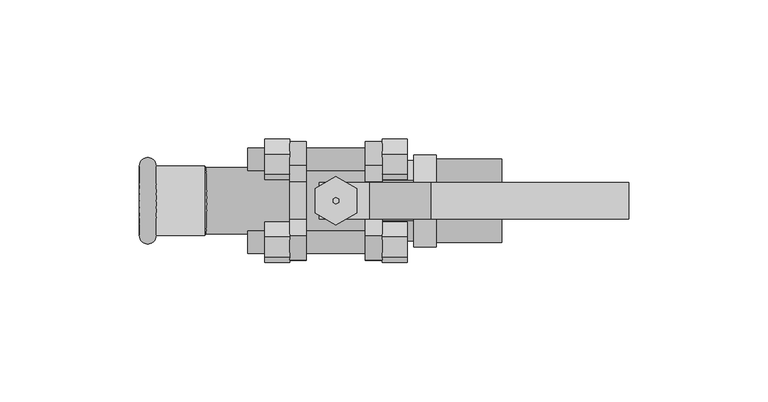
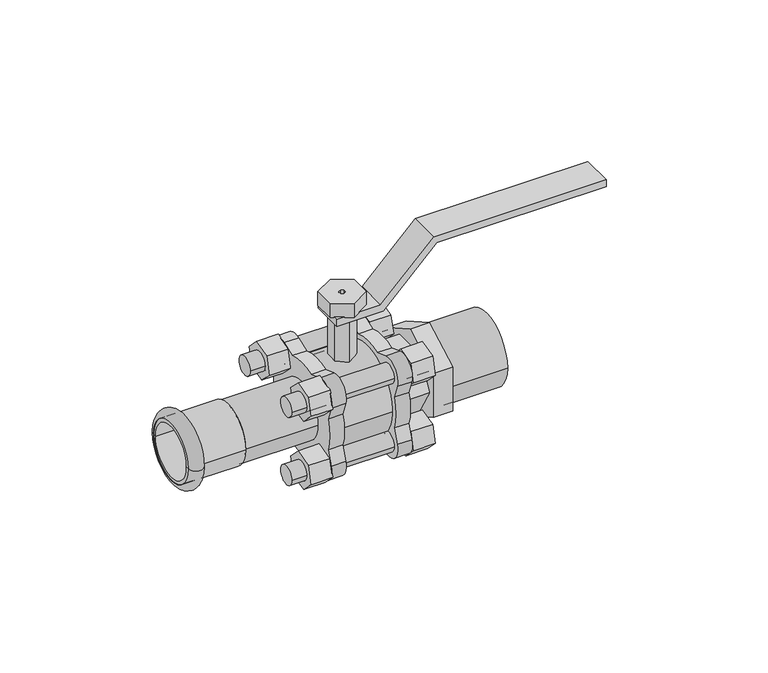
"""IFC4 building model written with IfcOpenShell, lengths in millimetres: valve geometry."""

from ifc_helpers import new_model, si_unit, point, frame, frame_2d, origin, origin_2d, place, context, project, spatial, polyline, circle_curve, ellipse_curve, trimmed, segment, composite_curve, outline, extrude, source, transform, mapped, element, save
from ifc_brep_helpers import plane_surface, cylinder_surface, revolved_surface, advanced_brep


def valve_31f89c0d(model_context):
    return source(origin(), model_context, "Body", "SolidModel", [
        extrude(outline(polyline([(36.0, 13.2426407), (58.0, 35.2426407), (58.0, 105.0), (61.0, 105.0), (61.0, 34.0), (39.0, 12.0), (39.0, -6.0), (36.0, -6.0), (36.0, 13.2426407)])), frame((0.0, -6.5625, 0.0), z_axis=(0.0, 1.0, 0.0), x_axis=(0.0, 0.0, 1.0)), (0.0, 0.0, 1.0), 13.125),
        advanced_brep(
        [(-70.5, 12.5, 0.0), (-70.5, -12.5, 0.0), (-64.4987073, -12.5, 0.0), (-64.4987073, 12.5, 0.0)],
        [
            (0, 1, circle_curve(frame((-70.5, 0.0, 0.0), z_axis=(-1.0, 0.0, 0.0), x_axis=(0.0, -1.0, 0.0)), 12.5)),
            (1, 2),
            (2, 3, circle_curve(frame((-64.4987073, 0.0, 0.0), z_axis=(1.0, 0.0, 0.0), x_axis=(0.0, -1.0, 0.0)), 12.5)),
            (3, 0),
            (1, 0, circle_curve(frame((-70.5, 0.0, 0.0), z_axis=(-1.0, 0.0, 0.0), x_axis=(0.0, -1.0, 0.0)), 12.5)),
            (3, 2, circle_curve(frame((-64.4987073, 0.0, 0.0), z_axis=(1.0, 0.0, 0.0), x_axis=(0.0, -1.0, 0.0)), 12.5)),
            (2, 1, circle_curve(frame((-67.4993536, -12.5, 0.0), z_axis=(0.0, 0.0, -1.0), x_axis=(-1.0, 0.0, 0.0)), 3.0006464)),
            (0, 3, circle_curve(frame((-67.4993536, 12.5, 0.0), z_axis=(0.0, 0.0, -1.0), x_axis=(-1.0, 0.0, 0.0)), 3.0006464)),
        ],
        [
            revolved_surface(polyline([(-64.4987073, -12.5, 0.0), (-70.5, -12.5, 0.0)]), (-47.0, 0.0, 0.0), (1.0, 0.0, 0.0)),
            revolved_surface(trimmed(ellipse_curve(frame((-67.4993536, -12.5, 0.0), z_axis=(0.0, 0.0, 1.0), x_axis=(-1.0, 0.0, 0.0)), 3.0006464, 3.0006464), [point((-70.5, -12.5, 0.0))], [point((-64.4987073, -12.5, 0.0))], True, "CARTESIAN"), (-47.0, 0.0, 0.0), (1.0, 0.0, 0.0)),
        ],
        [
            (0, [[1, 2, 3, 4]]),
            (0, [[5, -4, 6, -2]]),
            (1, [[-3, 7, -1, 8]]),
            (1, [[-6, -8, -5, -7]]),
        ],
    ),
        advanced_brep(
        [(-70.5, 11.0, 0.0), (-70.5, -11.0, 0.0), (-46.0, -11.0, 0.0), (-46.0, 11.0, 0.0), (-70.5, 12.5, 0.0), (-70.5, -12.5, 0.0), (-47.0, 12.5, 0.0), (-47.0, -12.5, 0.0)],
        [
            (0, 1, circle_curve(frame((-70.5, 0.0, 0.0), z_axis=(-1.0, 0.0, 0.0), x_axis=(0.0, -1.0, 0.0)), 11.0)),
            (1, 2),
            (2, 3, circle_curve(frame((-46.0, 0.0, 0.0), z_axis=(1.0, 0.0, 0.0), x_axis=(0.0, -1.0, 0.0)), 11.0)),
            (3, 0),
            (1, 0, circle_curve(frame((-70.5, 0.0, 0.0), z_axis=(-1.0, 0.0, 0.0), x_axis=(0.0, -1.0, 0.0)), 11.0)),
            (3, 2, circle_curve(frame((-46.0, 0.0, 0.0), z_axis=(1.0, 0.0, 0.0), x_axis=(0.0, -1.0, 0.0)), 11.0)),
            (4, 5, circle_curve(frame((-70.5, 0.0, 0.0), z_axis=(-1.0, 0.0, 0.0), x_axis=(0.0, -1.0, 0.0)), 12.5)),
            (5, 1),
            (0, 4),
            (5, 4, circle_curve(frame((-70.5, 0.0, 0.0), z_axis=(-1.0, 0.0, 0.0), x_axis=(0.0, -1.0, 0.0)), 12.5)),
            (6, 7, circle_curve(frame((-47.0, 0.0, 0.0), z_axis=(-1.0, 0.0, 0.0), x_axis=(0.0, -1.0, 0.0)), 12.5)),
            (7, 5),
            (4, 6),
            (7, 6, circle_curve(frame((-47.0, 0.0, 0.0), z_axis=(-1.0, 0.0, 0.0), x_axis=(0.0, -1.0, 0.0)), 12.5)),
            (2, 7),
            (6, 3),
        ],
        [
            revolved_surface(polyline([(-46.0, -11.0, 0.0), (-70.5, -11.0, 0.0)]), (-47.0, 0.0, 0.0), (1.0, 0.0, 0.0)),
            plane_surface(frame((-70.5, 0.0, 0.0), z_axis=(-1.0, 0.0, 0.0), x_axis=(0.0, -1.0, 0.0))),
            cylinder_surface(frame((-47.0, 0.0, 0.0), z_axis=(1.0, 0.0, 0.0), x_axis=(0.0, -1.0, 0.0)), 12.5),
            revolved_surface(polyline([(-47.0, -12.5, 0.0), (-46.0, -11.0, 0.0)]), (-47.0, 0.0, 0.0), (1.0, 0.0, 0.0)),
        ],
        [
            (0, [[1, 2, 3, 4]]),
            (0, [[5, -4, 6, -2]]),
            (1, [[7, 8, -1, 9]]),
            (1, [[10, -9, -5, -8]]),
            (2, [[11, 12, -7, 13]]),
            (2, [[14, -13, -10, -12]]),
            (3, [[-3, 15, -11, 16]]),
            (3, [[-6, -16, -14, -15]]),
        ],
    ),
        extrude(outline(composite_curve([segment(trimmed(circle_curve(origin_2d(), 15.0), [point((-15.0, 0.0))], [point((15.0, 0.0))], False, "CARTESIAN"), True, "CONTINUOUS"), segment(trimmed(circle_curve(origin_2d(), 15.0), [point((15.0, 0.0))], [point((-15.0, 0.0))], False, "CARTESIAN"), True, "CONTINUOUS")], self_intersect=False), holes=[composite_curve([segment(trimmed(circle_curve(origin_2d(), 10.0), [point((-10.0, 0.0))], [point((10.0, 0.0))], True, "CARTESIAN"), True, "CONTINUOUS"), segment(trimmed(circle_curve(origin_2d(), 10.0), [point((10.0, 0.0))], [point((-10.0, 0.0))], True, "CARTESIAN"), True, "CONTINUOUS")], self_intersect=False)]), frame((36.0, 0.0, 0.0), z_axis=(1.0, 0.0, 0.0), x_axis=(0.0, 1.0, 0.0)), (0.0, 0.0, 1.0), 23.5),
        extrude(outline(polyline([(16.5, -9.5262794), (0.0, -19.0525589), (-16.5, -9.5262794), (-16.5, 9.5262794), (0.0, 19.0525589), (16.5, 9.5262794), (16.5, -9.5262794)]), holes=[composite_curve([segment(trimmed(circle_curve(origin_2d(), 10.0), [point((10.0, 0.0))], [point((-10.0, 0.0))], True, "CARTESIAN"), True, "CONTINUOUS"), segment(trimmed(circle_curve(origin_2d(), 10.0), [point((-10.0, 0.0))], [point((10.0, 0.0))], True, "CARTESIAN"), True, "CONTINUOUS")], self_intersect=False)]), frame((28.0, 0.0, 0.0), z_axis=(1.0, 0.0, 0.0), x_axis=(0.0, 1.0, 0.0)), (0.0, 0.0, 1.0), 8.0),
        advanced_brep(
        [(-31.6, -18.8492424, 14.8492424), (-31.6, -10.8492424, 14.8492424), (-31.6, 10.8492424, 14.8492424), (-31.6, 18.8492424, 14.8492424), (-31.6, -18.8492424, -14.8492424), (-31.6, -10.8492424, -14.8492424), (-31.6, 10.8492424, -14.8492424), (-31.6, 18.8492424, -14.8492424), (25.6, -18.8492424, 14.8492424), (25.6, -10.8492424, 14.8492424), (25.6, 10.8492424, 14.8492424), (25.6, 18.8492424, 14.8492424), (25.6, -18.8492424, -14.8492424), (25.6, -10.8492424, -14.8492424), (25.6, 10.8492424, -14.8492424), (25.6, 18.8492424, -14.8492424), (-16.6, -18.8492424, 14.8492424), (-16.6, -10.8492424, 14.8492424), (16.6, -10.8492424, 14.8492424), (16.6, -18.8492424, 14.8492424), (10.6, -18.8492424, 14.8492424), (10.6, -10.8492424, 14.8492424), (-10.6, -10.8492424, 14.8492424), (-10.6, -18.8492424, 14.8492424), (-16.6, 10.8492424, 14.8492424), (-16.6, 18.8492424, 14.8492424), (16.6, 18.8492424, 14.8492424), (16.6, 10.8492424, 14.8492424), (10.6, 10.8492424, 14.8492424), (10.6, 18.8492424, 14.8492424), (-10.6, 18.8492424, 14.8492424), (-10.6, 10.8492424, 14.8492424), (-16.6, -18.8492424, -14.8492424), (-16.6, -10.8492424, -14.8492424), (16.6, -10.8492424, -14.8492424), (16.6, -18.8492424, -14.8492424), (10.6, -18.8492424, -14.8492424), (10.6, -10.8492424, -14.8492424), (-10.6, -10.8492424, -14.8492424), (-10.6, -18.8492424, -14.8492424), (-16.6, 10.8492424, -14.8492424), (-16.6, 18.8492424, -14.8492424), (16.6, 18.8492424, -14.8492424), (16.6, 10.8492424, -14.8492424), (10.6, 10.8492424, -14.8492424), (10.6, 18.8492424, -14.8492424), (-10.6, 18.8492424, -14.8492424), (-10.6, 10.8492424, -14.8492424), (10.6, -18.8225409, 6.7610617), (10.6, -20.9572444, 12.6261115), (10.6, -12.6261115, 20.9572444), (10.6, -6.7610617, 18.8225409), (10.6, 6.7610617, 18.8225409), (10.6, 12.6261115, 20.9572444), (10.6, 20.9572444, 12.6261115), (10.6, 18.8225409, 6.7610617), (10.6, 18.8225409, -6.7610617), (10.6, 20.9572444, -12.6261115), (10.6, 12.6261115, -20.9572444), (10.6, 6.7610617, -18.8225409), (10.6, -6.7610617, -18.8225409), (10.6, -12.6261115, -20.9572444), (10.6, -20.9572444, -12.6261115), (10.6, -18.8225409, -6.7610617), (10.6, -14.4337567, 0.0), (10.6, -7.2168784, -12.5), (10.6, 7.2168784, -12.5), (10.6, 14.4337567, 0.0), (10.6, 7.2168784, 12.5), (10.6, -7.2168784, 12.5), (10.6, -1.1547005, -2.0), (10.6, -2.3094011, 0.0), (10.6, -1.1547005, 2.0), (10.6, 1.1547005, 2.0), (10.6, 2.3094011, 0.0), (10.6, 1.1547005, -2.0), (16.6, -18.8225409, 6.7610617), (16.6, -18.8225409, -6.7610617), (16.6, -20.9572444, -12.6261115), (16.6, -12.6261115, -20.9572444), (16.6, -6.7610617, -18.8225409), (16.6, 6.7610617, -18.8225409), (16.6, 12.6261115, -20.9572444), (16.6, 20.9572444, -12.6261115), (16.6, 18.8225409, -6.7610617), (16.6, 18.8225409, 6.7610617), (16.6, 20.9572444, 12.6261115), (16.6, 12.6261115, 20.9572444), (16.6, 6.7610617, 18.8225409), (16.6, -6.7610617, 18.8225409), (16.6, -12.6261115, 20.9572444), (16.6, -20.9572444, 12.6261115), (16.6, -7.2168784, -12.5), (16.6, -14.4337567, 0.0), (16.6, -7.2168784, 12.5), (16.6, 7.2168784, 12.5), (16.6, 14.4337567, 0.0), (16.6, 7.2168784, -12.5), (16.6, -2.3094011, 0.0), (16.6, -1.1547005, -2.0), (16.6, 1.1547005, -2.0), (16.6, 2.3094011, 0.0), (16.6, 1.1547005, 2.0), (16.6, -1.1547005, 2.0), (-16.6, -18.8225409, 6.7610617), (-16.6, -20.9572444, 12.6261115), (-16.6, -12.6261115, 20.9572444), (-16.6, -6.7610617, 18.8225409), (-16.6, 6.7610617, 18.8225409), (-16.6, 12.6261115, 20.9572444), (-16.6, 20.9572444, 12.6261115), (-16.6, 18.8225409, 6.7610617), (-16.6, 18.8225409, -6.7610617), (-16.6, 20.9572444, -12.6261115), (-16.6, 12.6261115, -20.9572444), (-16.6, 6.7610617, -18.8225409), (-16.6, -6.7610617, -18.8225409), (-16.6, -12.6261115, -20.9572444), (-16.6, -20.9572444, -12.6261115), (-16.6, -18.8225409, -6.7610617), (-10.6, -18.8225409, 6.7610617), (-10.6, -18.8225409, -6.7610617), (-10.6, -20.9572444, -12.6261115), (-10.6, -12.6261115, -20.9572444), (-10.6, -6.7610617, -18.8225409), (-10.6, 6.7610617, -18.8225409), (-10.6, 12.6261115, -20.9572444), (-10.6, 20.9572444, -12.6261115), (-10.6, 18.8225409, -6.7610617), (-10.6, 18.8225409, 6.7610617), (-10.6, 20.9572444, 12.6261115), (-10.6, 12.6261115, 20.9572444), (-10.6, 6.7610617, 18.8225409), (-10.6, -6.7610617, 18.8225409), (-10.6, -12.6261115, 20.9572444), (-10.6, -20.9572444, 12.6261115), (0.0, -1.1547005, -2.0), (0.0, -2.3094011, 0.0), (28.0, -2.3094011, 0.0), (28.0, -1.1547005, -2.0), (28.0, -7.2168784, -12.5), (28.0, -14.4337567, 0.0), (0.0, -14.4337567, 0.0), (0.0, -7.2168784, -12.5), (0.0, -1.1547005, 2.0), (28.0, -1.1547005, 2.0), (28.0, -7.2168784, 12.5), (0.0, -7.2168784, 12.5), (0.0, 1.1547005, 2.0), (28.0, 1.1547005, 2.0), (28.0, 7.2168784, 12.5), (0.0, 7.2168784, 12.5), (0.0, 2.3094011, 0.0), (28.0, 2.3094011, 0.0), (28.0, 14.4337567, 0.0), (0.0, 14.4337567, 0.0), (0.0, 1.1547005, -2.0), (28.0, 1.1547005, -2.0), (28.0, 7.2168784, -12.5), (0.0, 7.2168784, -12.5)],
        [
            (0, 1, circle_curve(frame((-31.6, -14.8492424, 14.8492424), z_axis=(-1.0, 0.0, 0.0), x_axis=(0.0, 1.0, 0.0)), 4.0)),
            (1, 0, circle_curve(frame((-31.6, -14.8492424, 14.8492424), z_axis=(-1.0, 0.0, 0.0), x_axis=(0.0, 1.0, 0.0)), 4.0)),
            (2, 3, circle_curve(frame((-31.6, 14.8492424, 14.8492424), z_axis=(-1.0, 0.0, 0.0), x_axis=(0.0, 1.0, 0.0)), 4.0)),
            (3, 2, circle_curve(frame((-31.6, 14.8492424, 14.8492424), z_axis=(-1.0, 0.0, 0.0), x_axis=(0.0, 1.0, 0.0)), 4.0)),
            (4, 5, circle_curve(frame((-31.6, -14.8492424, -14.8492424), z_axis=(-1.0, 0.0, 0.0), x_axis=(0.0, 1.0, 0.0)), 4.0)),
            (5, 4, circle_curve(frame((-31.6, -14.8492424, -14.8492424), z_axis=(-1.0, 0.0, 0.0), x_axis=(0.0, 1.0, 0.0)), 4.0)),
            (6, 7, circle_curve(frame((-31.6, 14.8492424, -14.8492424), z_axis=(-1.0, 0.0, 0.0), x_axis=(0.0, 1.0, 0.0)), 4.0)),
            (7, 6, circle_curve(frame((-31.6, 14.8492424, -14.8492424), z_axis=(-1.0, 0.0, 0.0), x_axis=(0.0, 1.0, 0.0)), 4.0)),
            (8, 9, circle_curve(frame((25.6, -14.8492424, 14.8492424), z_axis=(1.0, 0.0, 0.0), x_axis=(0.0, 1.0, 0.0)), 4.0)),
            (9, 8, circle_curve(frame((25.6, -14.8492424, 14.8492424), z_axis=(1.0, 0.0, 0.0), x_axis=(0.0, 1.0, 0.0)), 4.0)),
            (10, 11, circle_curve(frame((25.6, 14.8492424, 14.8492424), z_axis=(1.0, 0.0, 0.0), x_axis=(0.0, 1.0, 0.0)), 4.0)),
            (11, 10, circle_curve(frame((25.6, 14.8492424, 14.8492424), z_axis=(1.0, 0.0, 0.0), x_axis=(0.0, 1.0, 0.0)), 4.0)),
            (12, 13, circle_curve(frame((25.6, -14.8492424, -14.8492424), z_axis=(1.0, 0.0, 0.0), x_axis=(0.0, 1.0, 0.0)), 4.0)),
            (13, 12, circle_curve(frame((25.6, -14.8492424, -14.8492424), z_axis=(1.0, 0.0, 0.0), x_axis=(0.0, 1.0, 0.0)), 4.0)),
            (14, 15, circle_curve(frame((25.6, 14.8492424, -14.8492424), z_axis=(1.0, 0.0, 0.0), x_axis=(0.0, 1.0, 0.0)), 4.0)),
            (15, 14, circle_curve(frame((25.6, 14.8492424, -14.8492424), z_axis=(1.0, 0.0, 0.0), x_axis=(0.0, 1.0, 0.0)), 4.0)),
            (0, 16),
            (16, 17, circle_curve(frame((-16.6, -14.8492424, 14.8492424), z_axis=(-1.0, 0.0, 0.0), x_axis=(0.0, 1.0, 0.0)), 4.0)),
            (17, 1),
            (9, 18),
            (18, 19, circle_curve(frame((16.6, -14.8492424, 14.8492424), z_axis=(1.0, 0.0, 0.0), x_axis=(0.0, 1.0, 0.0)), 4.0)),
            (19, 8),
            (20, 21, circle_curve(frame((10.6, -14.8492424, 14.8492424), z_axis=(-1.0, 0.0, 0.0), x_axis=(0.0, 1.0, 0.0)), 4.0)),
            (21, 22),
            (22, 23, circle_curve(frame((-10.6, -14.8492424, 14.8492424), z_axis=(1.0, 0.0, 0.0), x_axis=(0.0, 1.0, 0.0)), 4.0)),
            (23, 20),
            (17, 16, circle_curve(frame((-16.6, -14.8492424, 14.8492424), z_axis=(-1.0, 0.0, 0.0), x_axis=(0.0, 1.0, 0.0)), 4.0)),
            (19, 18, circle_curve(frame((16.6, -14.8492424, 14.8492424), z_axis=(1.0, 0.0, 0.0), x_axis=(0.0, 1.0, 0.0)), 4.0)),
            (21, 20, circle_curve(frame((10.6, -14.8492424, 14.8492424), z_axis=(-1.0, 0.0, 0.0), x_axis=(0.0, 1.0, 0.0)), 4.0)),
            (23, 22, circle_curve(frame((-10.6, -14.8492424, 14.8492424), z_axis=(1.0, 0.0, 0.0), x_axis=(0.0, 1.0, 0.0)), 4.0)),
            (2, 24),
            (24, 25, circle_curve(frame((-16.6, 14.8492424, 14.8492424), z_axis=(-1.0, 0.0, 0.0), x_axis=(0.0, 1.0, 0.0)), 4.0)),
            (25, 3),
            (11, 26),
            (26, 27, circle_curve(frame((16.6, 14.8492424, 14.8492424), z_axis=(1.0, 0.0, 0.0), x_axis=(0.0, 1.0, 0.0)), 4.0)),
            (27, 10),
            (28, 29, circle_curve(frame((10.6, 14.8492424, 14.8492424), z_axis=(-1.0, 0.0, 0.0), x_axis=(0.0, 1.0, 0.0)), 4.0)),
            (29, 30),
            (30, 31, circle_curve(frame((-10.6, 14.8492424, 14.8492424), z_axis=(1.0, 0.0, 0.0), x_axis=(0.0, 1.0, 0.0)), 4.0)),
            (31, 28),
            (25, 24, circle_curve(frame((-16.6, 14.8492424, 14.8492424), z_axis=(-1.0, 0.0, 0.0), x_axis=(0.0, 1.0, 0.0)), 4.0)),
            (27, 26, circle_curve(frame((16.6, 14.8492424, 14.8492424), z_axis=(1.0, 0.0, 0.0), x_axis=(0.0, 1.0, 0.0)), 4.0)),
            (29, 28, circle_curve(frame((10.6, 14.8492424, 14.8492424), z_axis=(-1.0, 0.0, 0.0), x_axis=(0.0, 1.0, 0.0)), 4.0)),
            (31, 30, circle_curve(frame((-10.6, 14.8492424, 14.8492424), z_axis=(1.0, 0.0, 0.0), x_axis=(0.0, 1.0, 0.0)), 4.0)),
            (4, 32),
            (32, 33, circle_curve(frame((-16.6, -14.8492424, -14.8492424), z_axis=(-1.0, 0.0, 0.0), x_axis=(0.0, 1.0, 0.0)), 4.0)),
            (33, 5),
            (13, 34),
            (34, 35, circle_curve(frame((16.6, -14.8492424, -14.8492424), z_axis=(1.0, 0.0, 0.0), x_axis=(0.0, 1.0, 0.0)), 4.0)),
            (35, 12),
            (36, 37, circle_curve(frame((10.6, -14.8492424, -14.8492424), z_axis=(-1.0, 0.0, 0.0), x_axis=(0.0, 1.0, 0.0)), 4.0)),
            (37, 38),
            (38, 39, circle_curve(frame((-10.6, -14.8492424, -14.8492424), z_axis=(1.0, 0.0, 0.0), x_axis=(0.0, 1.0, 0.0)), 4.0)),
            (39, 36),
            (33, 32, circle_curve(frame((-16.6, -14.8492424, -14.8492424), z_axis=(-1.0, 0.0, 0.0), x_axis=(0.0, 1.0, 0.0)), 4.0)),
            (35, 34, circle_curve(frame((16.6, -14.8492424, -14.8492424), z_axis=(1.0, 0.0, 0.0), x_axis=(0.0, 1.0, 0.0)), 4.0)),
            (37, 36, circle_curve(frame((10.6, -14.8492424, -14.8492424), z_axis=(-1.0, 0.0, 0.0), x_axis=(0.0, 1.0, 0.0)), 4.0)),
            (39, 38, circle_curve(frame((-10.6, -14.8492424, -14.8492424), z_axis=(1.0, 0.0, 0.0), x_axis=(0.0, 1.0, 0.0)), 4.0)),
            (6, 40),
            (40, 41, circle_curve(frame((-16.6, 14.8492424, -14.8492424), z_axis=(-1.0, 0.0, 0.0), x_axis=(0.0, 1.0, 0.0)), 4.0)),
            (41, 7),
            (15, 42),
            (42, 43, circle_curve(frame((16.6, 14.8492424, -14.8492424), z_axis=(1.0, 0.0, 0.0), x_axis=(0.0, 1.0, 0.0)), 4.0)),
            (43, 14),
            (44, 45, circle_curve(frame((10.6, 14.8492424, -14.8492424), z_axis=(-1.0, 0.0, 0.0), x_axis=(0.0, 1.0, 0.0)), 4.0)),
            (45, 46),
            (46, 47, circle_curve(frame((-10.6, 14.8492424, -14.8492424), z_axis=(1.0, 0.0, 0.0), x_axis=(0.0, 1.0, 0.0)), 4.0)),
            (47, 44),
            (41, 40, circle_curve(frame((-16.6, 14.8492424, -14.8492424), z_axis=(-1.0, 0.0, 0.0), x_axis=(0.0, 1.0, 0.0)), 4.0)),
            (43, 42, circle_curve(frame((16.6, 14.8492424, -14.8492424), z_axis=(1.0, 0.0, 0.0), x_axis=(0.0, 1.0, 0.0)), 4.0)),
            (45, 44, circle_curve(frame((10.6, 14.8492424, -14.8492424), z_axis=(-1.0, 0.0, 0.0), x_axis=(0.0, 1.0, 0.0)), 4.0)),
            (47, 46, circle_curve(frame((-10.6, 14.8492424, -14.8492424), z_axis=(1.0, 0.0, 0.0), x_axis=(0.0, 1.0, 0.0)), 4.0)),
            (48, 49),
            (49, 50, circle_curve(frame((10.6, -14.8492424, 14.8492424), z_axis=(-1.0, 0.0, 0.0), x_axis=(0.0, 1.0, 0.0)), 6.5)),
            (50, 51),
            (51, 52, circle_curve(frame((10.6, 0.0, 0.0), z_axis=(-1.0, 0.0, 0.0), x_axis=(0.0, 1.0, 0.0)), 20.0)),
            (52, 53),
            (53, 54, circle_curve(frame((10.6, 14.8492424, 14.8492424), z_axis=(-1.0, 0.0, 0.0), x_axis=(0.0, 1.0, 0.0)), 6.5)),
            (54, 55),
            (55, 56, circle_curve(frame((10.6, 0.0, 0.0), z_axis=(-1.0, 0.0, 0.0), x_axis=(0.0, 1.0, 0.0)), 20.0)),
            (56, 57),
            (57, 58, circle_curve(frame((10.6, 14.8492424, -14.8492424), z_axis=(-1.0, 0.0, 0.0), x_axis=(0.0, 1.0, 0.0)), 6.5)),
            (58, 59),
            (59, 60, circle_curve(frame((10.6, 0.0, 0.0), z_axis=(-1.0, 0.0, 0.0), x_axis=(0.0, 1.0, 0.0)), 20.0)),
            (60, 61),
            (61, 62, circle_curve(frame((10.6, -14.8492424, -14.8492424), z_axis=(-1.0, 0.0, 0.0), x_axis=(0.0, 1.0, 0.0)), 6.5)),
            (62, 63),
            (63, 48, circle_curve(frame((10.6, 0.0, 0.0), z_axis=(-1.0, 0.0, 0.0), x_axis=(0.0, 1.0, 0.0)), 20.0)),
            (64, 65),
            (65, 66),
            (66, 67),
            (67, 68),
            (68, 69),
            (69, 64),
            (70, 71),
            (71, 72),
            (72, 73),
            (73, 74),
            (74, 75),
            (75, 70),
            (76, 77, circle_curve(frame((16.6, 0.0, 0.0), z_axis=(1.0, 0.0, 0.0), x_axis=(0.0, 1.0, 0.0)), 20.0)),
            (77, 78),
            (78, 79, circle_curve(frame((16.6, -14.8492424, -14.8492424), z_axis=(1.0, 0.0, 0.0), x_axis=(0.0, 1.0, 0.0)), 6.5)),
            (79, 80),
            (80, 81, circle_curve(frame((16.6, 0.0, 0.0), z_axis=(1.0, 0.0, 0.0), x_axis=(0.0, 1.0, 0.0)), 20.0)),
            (81, 82),
            (82, 83, circle_curve(frame((16.6, 14.8492424, -14.8492424), z_axis=(1.0, 0.0, 0.0), x_axis=(0.0, 1.0, 0.0)), 6.5)),
            (83, 84),
            (84, 85, circle_curve(frame((16.6, 0.0, 0.0), z_axis=(1.0, 0.0, 0.0), x_axis=(0.0, 1.0, 0.0)), 20.0)),
            (85, 86),
            (86, 87, circle_curve(frame((16.6, 14.8492424, 14.8492424), z_axis=(1.0, 0.0, 0.0), x_axis=(0.0, 1.0, 0.0)), 6.5)),
            (87, 88),
            (88, 89, circle_curve(frame((16.6, 0.0, 0.0), z_axis=(1.0, 0.0, 0.0), x_axis=(0.0, 1.0, 0.0)), 20.0)),
            (89, 90),
            (90, 91, circle_curve(frame((16.6, -14.8492424, 14.8492424), z_axis=(1.0, 0.0, 0.0), x_axis=(0.0, 1.0, 0.0)), 6.5)),
            (91, 76),
            (92, 93),
            (93, 94),
            (94, 95),
            (95, 96),
            (96, 97),
            (97, 92),
            (98, 99),
            (99, 100),
            (100, 101),
            (101, 102),
            (102, 103),
            (103, 98),
            (48, 76),
            (91, 49),
            (90, 50),
            (89, 51),
            (88, 52),
            (87, 53),
            (86, 54),
            (85, 55),
            (84, 56),
            (83, 57),
            (82, 58),
            (81, 59),
            (80, 60),
            (79, 61),
            (78, 62),
            (77, 63),
            (104, 105),
            (105, 106, circle_curve(frame((-16.6, -14.8492424, 14.8492424), z_axis=(-1.0, 0.0, 0.0), x_axis=(0.0, 1.0, 0.0)), 6.5)),
            (106, 107),
            (107, 108, circle_curve(frame((-16.6, 0.0, 0.0), z_axis=(-1.0, 0.0, 0.0), x_axis=(0.0, 1.0, 0.0)), 20.0)),
            (108, 109),
            (109, 110, circle_curve(frame((-16.6, 14.8492424, 14.8492424), z_axis=(-1.0, 0.0, 0.0), x_axis=(0.0, 1.0, 0.0)), 6.5)),
            (110, 111),
            (111, 112, circle_curve(frame((-16.6, 0.0, 0.0), z_axis=(-1.0, 0.0, 0.0), x_axis=(0.0, 1.0, 0.0)), 20.0)),
            (112, 113),
            (113, 114, circle_curve(frame((-16.6, 14.8492424, -14.8492424), z_axis=(-1.0, 0.0, 0.0), x_axis=(0.0, 1.0, 0.0)), 6.5)),
            (114, 115),
            (115, 116, circle_curve(frame((-16.6, 0.0, 0.0), z_axis=(-1.0, 0.0, 0.0), x_axis=(0.0, 1.0, 0.0)), 20.0)),
            (116, 117),
            (117, 118, circle_curve(frame((-16.6, -14.8492424, -14.8492424), z_axis=(-1.0, 0.0, 0.0), x_axis=(0.0, 1.0, 0.0)), 6.5)),
            (118, 119),
            (119, 104, circle_curve(frame((-16.6, 0.0, 0.0), z_axis=(-1.0, 0.0, 0.0), x_axis=(0.0, 1.0, 0.0)), 20.0)),
            (120, 121, circle_curve(frame((-10.6, 0.0, 0.0), z_axis=(1.0, 0.0, 0.0), x_axis=(0.0, 1.0, 0.0)), 20.0)),
            (121, 122),
            (122, 123, circle_curve(frame((-10.6, -14.8492424, -14.8492424), z_axis=(1.0, 0.0, 0.0), x_axis=(0.0, 1.0, 0.0)), 6.5)),
            (123, 124),
            (124, 125, circle_curve(frame((-10.6, 0.0, 0.0), z_axis=(1.0, 0.0, 0.0), x_axis=(0.0, 1.0, 0.0)), 20.0)),
            (125, 126),
            (126, 127, circle_curve(frame((-10.6, 14.8492424, -14.8492424), z_axis=(1.0, 0.0, 0.0), x_axis=(0.0, 1.0, 0.0)), 6.5)),
            (127, 128),
            (128, 129, circle_curve(frame((-10.6, 0.0, 0.0), z_axis=(1.0, 0.0, 0.0), x_axis=(0.0, 1.0, 0.0)), 20.0)),
            (129, 130),
            (130, 131, circle_curve(frame((-10.6, 14.8492424, 14.8492424), z_axis=(1.0, 0.0, 0.0), x_axis=(0.0, 1.0, 0.0)), 6.5)),
            (131, 132),
            (132, 133, circle_curve(frame((-10.6, 0.0, 0.0), z_axis=(1.0, 0.0, 0.0), x_axis=(0.0, 1.0, 0.0)), 20.0)),
            (133, 134),
            (134, 135, circle_curve(frame((-10.6, -14.8492424, 14.8492424), z_axis=(1.0, 0.0, 0.0), x_axis=(0.0, 1.0, 0.0)), 6.5)),
            (135, 120),
            (104, 120),
            (135, 105),
            (134, 106),
            (133, 107),
            (132, 108),
            (131, 109),
            (130, 110),
            (129, 111),
            (128, 112),
            (127, 113),
            (126, 114),
            (125, 115),
            (124, 116),
            (123, 117),
            (122, 118),
            (121, 119),
            (136, 137),
            (137, 71),
            (70, 136),
            (138, 139),
            (139, 99),
            (98, 138),
            (140, 141),
            (141, 93),
            (92, 140),
            (142, 143),
            (143, 65),
            (64, 142),
            (137, 144),
            (144, 72),
            (145, 138),
            (103, 145),
            (141, 146),
            (146, 94),
            (147, 142),
            (69, 147),
            (144, 148),
            (148, 73),
            (149, 145),
            (102, 149),
            (146, 150),
            (150, 95),
            (151, 147),
            (68, 151),
            (148, 152),
            (152, 74),
            (153, 149),
            (101, 153),
            (150, 154),
            (154, 96),
            (155, 151),
            (67, 155),
            (152, 156),
            (156, 75),
            (157, 153),
            (100, 157),
            (154, 158),
            (158, 97),
            (159, 155),
            (66, 159),
            (140, 158),
            (157, 139),
            (156, 136),
            (159, 143),
        ],
        [
            plane_surface(frame((-31.6, 0.0, 0.0), z_axis=(-1.0, 0.0, 0.0), x_axis=(0.0, 0.0, 1.0))),
            plane_surface(frame((25.6, 0.0, 0.0), z_axis=(1.0, 0.0, 0.0), x_axis=(0.0, 0.0, 1.0))),
            cylinder_surface(frame((-31.6, -14.8492424, 14.8492424), z_axis=(-1.0, 0.0, 0.0), x_axis=(0.0, 1.0, 0.0)), 4.0),
            cylinder_surface(frame((-31.6, 14.8492424, 14.8492424), z_axis=(-1.0, 0.0, 0.0), x_axis=(0.0, 1.0, 0.0)), 4.0),
            cylinder_surface(frame((-31.6, -14.8492424, -14.8492424), z_axis=(-1.0, 0.0, 0.0), x_axis=(0.0, 1.0, 0.0)), 4.0),
            cylinder_surface(frame((-31.6, 14.8492424, -14.8492424), z_axis=(-1.0, 0.0, 0.0), x_axis=(0.0, 1.0, 0.0)), 4.0),
            plane_surface(frame((10.6, 0.0, 0.0), z_axis=(-1.0, 0.0, 0.0), x_axis=(0.0, 0.0, 1.0))),
            plane_surface(frame((16.6, 0.0, 0.0), z_axis=(1.0, 0.0, 0.0), x_axis=(0.0, 0.0, 1.0))),
            plane_surface(frame((10.6, -18.8225409, 6.7610617), z_axis=(0.0, -0.939692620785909, -0.34202014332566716), x_axis=(1.0, 0.0, 0.0))),
            cylinder_surface(frame((10.6, -14.8492424, 14.8492424), z_axis=(-1.0, 0.0, 0.0), x_axis=(0.0, 1.0, 0.0)), 6.5),
            plane_surface(frame((10.6, -12.6261115, 20.9572444), z_axis=(0.0, 0.34202014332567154, 0.9396926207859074), x_axis=(1.0, 0.0, 0.0))),
            cylinder_surface(frame((10.6, 0.0, 0.0), z_axis=(-1.0, 0.0, 0.0), x_axis=(0.0, 1.0, 0.0)), 20.0),
            plane_surface(frame((10.6, 6.7610617, 18.8225409), z_axis=(0.0, -0.34202014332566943, 0.9396926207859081), x_axis=(1.0, 0.0, 0.0))),
            cylinder_surface(frame((10.6, 14.8492424, 14.8492424), z_axis=(-1.0, 0.0, 0.0), x_axis=(0.0, 1.0, 0.0)), 6.5),
            plane_surface(frame((10.6, 20.9572444, 12.6261115), z_axis=(0.0, 0.9396926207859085, -0.3420201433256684), x_axis=(1.0, 0.0, 0.0))),
            plane_surface(frame((10.6, 18.8225409, -6.7610617), z_axis=(0.0, 0.939692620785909, 0.3420201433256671), x_axis=(1.0, 0.0, 0.0))),
            cylinder_surface(frame((10.6, 14.8492424, -14.8492424), z_axis=(-1.0, 0.0, 0.0), x_axis=(0.0, 1.0, 0.0)), 6.5),
            plane_surface(frame((10.6, 12.6261115, -20.9572444), z_axis=(0.0, -0.3420201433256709, -0.9396926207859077), x_axis=(1.0, 0.0, 0.0))),
            plane_surface(frame((10.6, -6.7610617, -18.8225409), z_axis=(0.0, 0.3420201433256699, -0.9396926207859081), x_axis=(1.0, 0.0, 0.0))),
            cylinder_surface(frame((10.6, -14.8492424, -14.8492424), z_axis=(-1.0, 0.0, 0.0), x_axis=(0.0, 1.0, 0.0)), 6.5),
            plane_surface(frame((10.6, -20.9572444, -12.6261115), z_axis=(0.0, -0.9396926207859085, 0.3420201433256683), x_axis=(1.0, 0.0, 0.0))),
            plane_surface(frame((-16.6, 0.0, 0.0), z_axis=(-1.0, 0.0, 0.0), x_axis=(0.0, 0.0, 1.0))),
            plane_surface(frame((-10.6, 0.0, 0.0), z_axis=(1.0, 0.0, 0.0), x_axis=(0.0, 0.0, 1.0))),
            plane_surface(frame((-16.6, -18.8225409, 6.7610617), z_axis=(0.0, -0.939692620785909, -0.34202014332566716), x_axis=(1.0, 0.0, 0.0))),
            cylinder_surface(frame((-16.6, -14.8492424, 14.8492424), z_axis=(-1.0, 0.0, 0.0), x_axis=(0.0, 1.0, 0.0)), 6.5),
            plane_surface(frame((-16.6, -12.6261115, 20.9572444), z_axis=(0.0, 0.34202014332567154, 0.9396926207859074), x_axis=(1.0, 0.0, 0.0))),
            cylinder_surface(frame((-16.6, 0.0, 0.0), z_axis=(-1.0, 0.0, 0.0), x_axis=(0.0, 1.0, 0.0)), 20.0),
            plane_surface(frame((-16.6, 6.7610617, 18.8225409), z_axis=(0.0, -0.34202014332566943, 0.9396926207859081), x_axis=(1.0, 0.0, 0.0))),
            cylinder_surface(frame((-16.6, 14.8492424, 14.8492424), z_axis=(-1.0, 0.0, 0.0), x_axis=(0.0, 1.0, 0.0)), 6.5),
            plane_surface(frame((-16.6, 20.9572444, 12.6261115), z_axis=(0.0, 0.9396926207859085, -0.3420201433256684), x_axis=(1.0, 0.0, 0.0))),
            plane_surface(frame((-16.6, 18.8225409, -6.7610617), z_axis=(0.0, 0.939692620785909, 0.3420201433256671), x_axis=(1.0, 0.0, 0.0))),
            cylinder_surface(frame((-16.6, 14.8492424, -14.8492424), z_axis=(-1.0, 0.0, 0.0), x_axis=(0.0, 1.0, 0.0)), 6.5),
            plane_surface(frame((-16.6, 12.6261115, -20.9572444), z_axis=(0.0, -0.3420201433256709, -0.9396926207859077), x_axis=(1.0, 0.0, 0.0))),
            plane_surface(frame((-16.6, -6.7610617, -18.8225409), z_axis=(0.0, 0.3420201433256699, -0.9396926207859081), x_axis=(1.0, 0.0, 0.0))),
            cylinder_surface(frame((-16.6, -14.8492424, -14.8492424), z_axis=(-1.0, 0.0, 0.0), x_axis=(0.0, 1.0, 0.0)), 6.5),
            plane_surface(frame((-16.6, -20.9572444, -12.6261115), z_axis=(0.0, -0.9396926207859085, 0.3420201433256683), x_axis=(1.0, 0.0, 0.0))),
            plane_surface(frame((0.0, -1.1547005, -2.0), z_axis=(0.0, 0.866025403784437, 0.5000000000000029), x_axis=(0.0, -0.5000000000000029, 0.866025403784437))),
            plane_surface(frame((28.0, -7.2168784, -12.5), z_axis=(0.0, -0.866025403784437, -0.5000000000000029), x_axis=(0.0, -0.5000000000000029, 0.866025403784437))),
            plane_surface(frame((0.0, -2.3094011, 0.0), z_axis=(0.0, 0.8660254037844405, -0.49999999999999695), x_axis=(0.0, 0.49999999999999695, 0.8660254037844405))),
            plane_surface(frame((28.0, -14.4337567, 0.0), z_axis=(0.0, -0.866025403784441, 0.49999999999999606), x_axis=(0.0, 0.49999999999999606, 0.866025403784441))),
            plane_surface(frame((0.0, -1.1547005, 2.0), z_axis=(0.0, 0.0, -1.0), x_axis=(0.0, 1.0, 0.0))),
            plane_surface(frame((28.0, -7.2168784, 12.5), z_axis=(0.0, 0.0, 1.0), x_axis=(0.0, 1.0, 0.0))),
            plane_surface(frame((0.0, 1.1547005, 2.0), z_axis=(0.0, -0.8660254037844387, -0.5000000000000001), x_axis=(0.0, 0.5000000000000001, -0.8660254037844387))),
            plane_surface(frame((28.0, 7.2168784, 12.5), z_axis=(0.0, 0.8660254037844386, 0.5000000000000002), x_axis=(0.0, 0.5000000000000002, -0.8660254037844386))),
            plane_surface(frame((0.0, 2.3094011, 0.0), z_axis=(0.0, -0.8660254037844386, 0.5000000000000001), x_axis=(0.0, -0.5000000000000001, -0.8660254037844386))),
            plane_surface(frame((28.0, 14.4337567, 0.0), z_axis=(0.0, 0.8660254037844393, -0.49999999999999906), x_axis=(0.0, -0.49999999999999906, -0.8660254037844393))),
            plane_surface(frame((28.0, 1.1547005, -2.0), z_axis=(1.0, 0.0, 0.0), x_axis=(0.0, -1.0, 0.0))),
            plane_surface(frame((0.0, 1.1547005, -2.0), z_axis=(0.0, 0.0, 1.0), x_axis=(0.0, -1.0, 0.0))),
            plane_surface(frame((0.0, 7.2168784, -12.5), z_axis=(-1.0, 0.0, 0.0), x_axis=(0.0, -1.0, 0.0))),
            plane_surface(frame((28.0, 7.2168784, -12.5), z_axis=(0.0, 0.0, -1.0), x_axis=(0.0, -1.0, 0.0))),
        ],
        [
            (0, [[1, 2]]),
            (0, [[3, 4]]),
            (0, [[5, 6]]),
            (0, [[7, 8]]),
            (1, [[9, 10]]),
            (1, [[11, 12]]),
            (1, [[13, 14]]),
            (1, [[15, 16]]),
            (2, [[-1, 17, 18, 19]]),
            (2, [[-10, 20, 21, 22]]),
            (2, [[23, 24, 25, 26]]),
            (2, [[-2, -19, 27, -17]]),
            (2, [[-9, -22, 28, -20]]),
            (2, [[29, -26, 30, -24]]),
            (3, [[-3, 31, 32, 33]]),
            (3, [[-12, 34, 35, 36]]),
            (3, [[37, 38, 39, 40]]),
            (3, [[-4, -33, 41, -31]]),
            (3, [[-11, -36, 42, -34]]),
            (3, [[43, -40, 44, -38]]),
            (4, [[-5, 45, 46, 47]]),
            (4, [[-14, 48, 49, 50]]),
            (4, [[51, 52, 53, 54]]),
            (4, [[-6, -47, 55, -45]]),
            (4, [[-13, -50, 56, -48]]),
            (4, [[57, -54, 58, -52]]),
            (5, [[-7, 59, 60, 61]]),
            (5, [[-16, 62, 63, 64]]),
            (5, [[65, 66, 67, 68]]),
            (5, [[-8, -61, 69, -59]]),
            (5, [[-15, -64, 70, -62]]),
            (5, [[71, -68, 72, -66]]),
            (6, [[73, 74, 75, 76, 77, 78, 79, 80, 81, 82, 83, 84, 85, 86, 87, 88], [-23, -29], [-37, -43], [-51, -57], [-65, -71], [89, 90, 91, 92, 93, 94]]),
            (6, [[95, 96, 97, 98, 99, 100]]),
            (7, [[101, 102, 103, 104, 105, 106, 107, 108, 109, 110, 111, 112, 113, 114, 115, 116], [-21, -28], [-35, -42], [-49, -56], [-63, -70], [117, 118, 119, 120, 121, 122]]),
            (7, [[123, 124, 125, 126, 127, 128]]),
            (8, [[-73, 129, -116, 130]]),
            (9, [[-74, -130, -115, 131]]),
            (10, [[-75, -131, -114, 132]]),
            (11, [[-76, -132, -113, 133]]),
            (12, [[-77, -133, -112, 134]]),
            (13, [[-78, -134, -111, 135]]),
            (14, [[-79, -135, -110, 136]]),
            (11, [[-80, -136, -109, 137]]),
            (15, [[-81, -137, -108, 138]]),
            (16, [[-82, -138, -107, 139]]),
            (17, [[-83, -139, -106, 140]]),
            (11, [[-84, -140, -105, 141]]),
            (18, [[-85, -141, -104, 142]]),
            (19, [[-86, -142, -103, 143]]),
            (20, [[-87, -143, -102, 144]]),
            (11, [[-88, -144, -101, -129]]),
            (21, [[145, 146, 147, 148, 149, 150, 151, 152, 153, 154, 155, 156, 157, 158, 159, 160], [-18, -27], [-32, -41], [-46, -55], [-60, -69]]),
            (22, [[161, 162, 163, 164, 165, 166, 167, 168, 169, 170, 171, 172, 173, 174, 175, 176], [-25, -30], [-39, -44], [-53, -58], [-67, -72]]),
            (23, [[-145, 177, -176, 178]]),
            (24, [[-146, -178, -175, 179]]),
            (25, [[-147, -179, -174, 180]]),
            (26, [[-148, -180, -173, 181]]),
            (27, [[-149, -181, -172, 182]]),
            (28, [[-150, -182, -171, 183]]),
            (29, [[-151, -183, -170, 184]]),
            (26, [[-152, -184, -169, 185]]),
            (30, [[-153, -185, -168, 186]]),
            (31, [[-154, -186, -167, 187]]),
            (32, [[-155, -187, -166, 188]]),
            (26, [[-156, -188, -165, 189]]),
            (33, [[-157, -189, -164, 190]]),
            (34, [[-158, -190, -163, 191]]),
            (35, [[-159, -191, -162, 192]]),
            (26, [[-160, -192, -161, -177]]),
            (36, [[193, 194, -95, 195]]),
            (36, [[196, 197, -123, 198]]),
            (37, [[199, 200, -117, 201]]),
            (37, [[202, 203, -89, 204]]),
            (38, [[205, 206, -96, -194]]),
            (38, [[207, -198, -128, 208]]),
            (39, [[209, 210, -118, -200]]),
            (39, [[211, -204, -94, 212]]),
            (40, [[213, 214, -97, -206]]),
            (40, [[215, -208, -127, 216]]),
            (41, [[217, 218, -119, -210]]),
            (41, [[219, -212, -93, 220]]),
            (42, [[221, 222, -98, -214]]),
            (42, [[223, -216, -126, 224]]),
            (43, [[225, 226, -120, -218]]),
            (43, [[227, -220, -92, 228]]),
            (44, [[229, 230, -99, -222]]),
            (44, [[231, -224, -125, 232]]),
            (45, [[233, 234, -121, -226]]),
            (45, [[235, -228, -91, 236]]),
            (46, [[-199, 237, -233, -225, -217, -209], [-196, -207, -215, -223, -231, 238]]),
            (47, [[-238, -232, -124, -197]]),
            (47, [[239, -195, -100, -230]]),
            (48, [[-202, -211, -219, -227, -235, 240], [-193, -239, -229, -221, -213, -205]]),
            (49, [[-237, -201, -122, -234]]),
            (49, [[-240, -236, -90, -203]]),
        ],
    ),
        advanced_brep(
        [(-10.6, -18.0, 0.0), (-10.6, 18.0, 0.0), (10.6, -18.0, 0.0), (10.6, 18.0, 0.0), (0.0, -5.1961524, 17.2336879), (-4.5, -2.5980762, 17.8115131), (-4.5, 2.5980762, 17.8115131), (0.0, 5.1961524, 17.2336879), (4.5, 2.5980762, 17.8115131), (4.5, -2.5980762, 17.8115131), (-1.0, -0.5773503, 17.9907384), (0.0, -1.1547005, 17.9629248), (1.0, -0.5773503, 17.9907384), (1.0, 0.5773503, 17.9907384), (0.0, 1.1547005, 17.9629248), (-1.0, 0.5773503, 17.9907384), (-7.5, -4.330127, 45.0), (-7.5, -4.330127, 39.0), (0.0, -8.660254, 39.0), (0.0, -8.660254, 45.0), (-1.0, -0.5773503, 45.0), (0.0, -1.1547005, 45.0), (0.0, -5.1961524, 39.0), (-4.5, -2.5980762, 39.0), (7.5, -4.330127, 39.0), (7.5, -4.330127, 45.0), (1.0, -0.5773503, 45.0), (4.5, -2.5980762, 39.0), (7.5, 4.330127, 45.0), (7.5, 4.330127, 39.0), (0.0, 8.660254, 39.0), (0.0, 8.660254, 45.0), (1.0, 0.5773503, 45.0), (0.0, 1.1547005, 45.0), (0.0, 5.1961524, 39.0), (4.5, 2.5980762, 39.0), (-7.5, 4.330127, 39.0), (-7.5, 4.330127, 45.0), (-1.0, 0.5773503, 45.0), (-4.5, 2.5980762, 39.0)],
        [
            (0, 1, circle_curve(frame((-10.6, 0.0, 0.0), z_axis=(-1.0, 0.0, 0.0), x_axis=(0.0, 1.0, 0.0)), 18.0)),
            (1, 0, circle_curve(frame((-10.6, 0.0, 0.0), z_axis=(-1.0, 0.0, 0.0), x_axis=(0.0, 1.0, 0.0)), 18.0)),
            (2, 3, circle_curve(frame((10.6, 0.0, 0.0), z_axis=(1.0, 0.0, 0.0), x_axis=(0.0, 1.0, 0.0)), 18.0)),
            (3, 2, circle_curve(frame((10.6, 0.0, 0.0), z_axis=(1.0, 0.0, 0.0), x_axis=(0.0, 1.0, 0.0)), 18.0)),
            (0, 2),
            (3, 1),
            (4, 5, ellipse_curve(frame((-9.0, 0.0, 0.0), z_axis=(-0.5000000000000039, -0.8660254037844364, 0.0), x_axis=(-0.8660254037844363, 0.5000000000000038, 0.0)), 36.0, 18.0)),
            (5, 6, circle_curve(frame((-4.5, 0.0, 0.0), z_axis=(-1.0, 0.0, 0.0), x_axis=(0.0, 1.0, 0.0)), 18.0)),
            (6, 7, ellipse_curve(frame((-9.0, 0.0, 0.0), z_axis=(-0.49999999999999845, 0.8660254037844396, 0.0), x_axis=(-0.8660254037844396, -0.4999999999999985, 0.0)), 36.0, 18.0)),
            (7, 8, ellipse_curve(frame((9.0, 0.0, 0.0), z_axis=(0.5000000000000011, 0.866025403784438, 0.0), x_axis=(-0.8660254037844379, 0.5000000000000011, 0.0)), 36.0, 18.0)),
            (8, 9, circle_curve(frame((4.5, 0.0, 0.0), z_axis=(1.0, 0.0, 0.0), x_axis=(0.0, 1.0, 0.0)), 18.0)),
            (9, 4, ellipse_curve(frame((9.0, 0.0, 0.0), z_axis=(0.4999999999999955, -0.8660254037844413, 0.0), x_axis=(-0.8660254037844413, -0.49999999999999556, 0.0)), 36.0, 18.0)),
            (10, 11, ellipse_curve(frame((-2.0, 0.0, 0.0), z_axis=(0.5000000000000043, 0.8660254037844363, 0.0), x_axis=(-0.866025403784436, 0.5000000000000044, 0.0)), 36.0, 18.0)),
            (11, 12, ellipse_curve(frame((2.0, 0.0, 0.0), z_axis=(-0.4999999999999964, 0.8660254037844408, 0.0), x_axis=(-0.8660254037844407, -0.4999999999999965, 0.0)), 36.0, 18.0)),
            (12, 13, circle_curve(frame((1.0, 0.0, 0.0), z_axis=(-1.0, 0.0, 0.0), x_axis=(0.0, 1.0, 0.0)), 18.0)),
            (13, 14, ellipse_curve(frame((2.0, 0.0, 0.0), z_axis=(-0.49999999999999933, -0.866025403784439, 0.0), x_axis=(-0.866025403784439, 0.4999999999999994, 0.0)), 36.0, 18.0)),
            (14, 15, ellipse_curve(frame((-2.0, 0.0, 0.0), z_axis=(0.49999999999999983, -0.8660254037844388, 0.0), x_axis=(-0.8660254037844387, -0.4999999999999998, 0.0)), 36.0, 18.0)),
            (15, 10, circle_curve(frame((-1.0, 0.0, 0.0), z_axis=(1.0, 0.0, 0.0), x_axis=(0.0, 1.0, 0.0)), 18.0)),
            (16, 17),
            (17, 18),
            (18, 19),
            (19, 16),
            (20, 21),
            (21, 11),
            (10, 20),
            (22, 23),
            (23, 5),
            (4, 22),
            (18, 24),
            (24, 25),
            (25, 19),
            (21, 26),
            (26, 12),
            (27, 22),
            (9, 27),
            (28, 29),
            (29, 30),
            (30, 31),
            (31, 28),
            (32, 33),
            (33, 14),
            (13, 32),
            (34, 35),
            (35, 8),
            (7, 34),
            (30, 36),
            (36, 37),
            (37, 31),
            (33, 38),
            (38, 15),
            (39, 34),
            (6, 39),
            (24, 29),
            (28, 25),
            (26, 32),
            (35, 27),
            (17, 36),
            (39, 23),
            (16, 37),
            (20, 38),
        ],
        [
            plane_surface(frame((-10.6, 0.0, 0.0), z_axis=(-1.0, 0.0, 0.0), x_axis=(0.0, 0.0, 1.0))),
            plane_surface(frame((10.6, 0.0, 0.0), z_axis=(1.0, 0.0, 0.0), x_axis=(0.0, 0.0, 1.0))),
            cylinder_surface(frame((-10.6, 0.0, 0.0), z_axis=(-1.0, 0.0, 0.0), x_axis=(0.0, 1.0, 0.0)), 18.0),
            plane_surface(frame((-7.5, -4.330127, 39.0), z_axis=(-0.5000000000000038, -0.8660254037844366, 0.0), x_axis=(0.8660254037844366, -0.5000000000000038, 0.0))),
            plane_surface(frame((-1.0, -0.5773503, 45.0), z_axis=(0.5000000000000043, 0.8660254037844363, 0.0), x_axis=(0.8660254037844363, -0.5000000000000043, 0.0))),
            plane_surface(frame((-4.5, -2.5980762, 0.0), z_axis=(-0.5000000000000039, -0.8660254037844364, 0.0), x_axis=(0.8660254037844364, -0.5000000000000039, 0.0))),
            plane_surface(frame((0.0, -8.660254, 39.0), z_axis=(0.49999999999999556, -0.8660254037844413, 0.0), x_axis=(0.8660254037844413, 0.49999999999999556, 0.0))),
            plane_surface(frame((0.0, -1.1547005, 45.0), z_axis=(-0.4999999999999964, 0.8660254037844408, 0.0), x_axis=(0.8660254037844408, 0.4999999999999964, 0.0))),
            plane_surface(frame((0.0, -5.1961524, 0.0), z_axis=(0.4999999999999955, -0.8660254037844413, 0.0), x_axis=(0.8660254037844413, 0.4999999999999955, 0.0))),
            plane_surface(frame((7.5, 4.330127, 39.0), z_axis=(0.5000000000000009, 0.8660254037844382, 0.0), x_axis=(-0.8660254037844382, 0.5000000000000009, 0.0))),
            plane_surface(frame((1.0, 0.5773503, 45.0), z_axis=(-0.49999999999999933, -0.866025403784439, 0.0), x_axis=(-0.866025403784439, 0.49999999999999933, 0.0))),
            plane_surface(frame((4.5, 2.5980762, 0.0), z_axis=(0.5000000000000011, 0.866025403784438, 0.0), x_axis=(-0.866025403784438, 0.5000000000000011, 0.0))),
            plane_surface(frame((0.0, 8.660254, 39.0), z_axis=(-0.4999999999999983, 0.8660254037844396, 0.0), x_axis=(-0.8660254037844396, -0.4999999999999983, 0.0))),
            plane_surface(frame((0.0, 1.1547005, 45.0), z_axis=(0.49999999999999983, -0.8660254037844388, 0.0), x_axis=(-0.8660254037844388, -0.49999999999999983, 0.0))),
            plane_surface(frame((0.0, 5.1961524, 0.0), z_axis=(-0.49999999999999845, 0.8660254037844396, 0.0), x_axis=(-0.8660254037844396, -0.49999999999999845, 0.0))),
            plane_surface(frame((7.5, -4.330127, 39.0), z_axis=(1.0, 0.0, 0.0), x_axis=(0.0, 1.0, 0.0))),
            plane_surface(frame((1.0, -0.5773503, 45.0), z_axis=(-1.0, 0.0, 0.0), x_axis=(0.0, 1.0, 0.0))),
            plane_surface(frame((4.5, -2.5980762, 0.0), z_axis=(1.0, 0.0, 0.0), x_axis=(0.0, 1.0, 0.0))),
            plane_surface(frame((-4.5, 2.5980762, 39.0), z_axis=(0.0, 0.0, -1.0), x_axis=(0.0, -1.0, 0.0))),
            plane_surface(frame((-7.5, 4.330127, 39.0), z_axis=(-1.0, 0.0, 0.0), x_axis=(0.0, -1.0, 0.0))),
            plane_surface(frame((-7.5, 4.330127, 45.0), z_axis=(0.0, 0.0, 1.0), x_axis=(0.0, -1.0, 0.0))),
            plane_surface(frame((-1.0, 0.5773503, 45.0), z_axis=(1.0, 0.0, 0.0), x_axis=(0.0, -1.0, 0.0))),
            plane_surface(frame((-4.5, 2.5980762, 0.0), z_axis=(-1.0, 0.0, 0.0), x_axis=(0.0, -1.0, 0.0))),
        ],
        [
            (0, [[1, 2]]),
            (1, [[3, 4]]),
            (2, [[-1, 5, -4, 6], [7, 8, 9, 10, 11, 12]]),
            (2, [[13, 14, 15, 16, 17, 18]]),
            (2, [[-2, -6, -3, -5]]),
            (3, [[19, 20, 21, 22]]),
            (4, [[23, 24, -13, 25]]),
            (5, [[26, 27, -7, 28]]),
            (6, [[-21, 29, 30, 31]]),
            (7, [[32, 33, -14, -24]]),
            (8, [[34, -28, -12, 35]]),
            (9, [[36, 37, 38, 39]]),
            (10, [[40, 41, -16, 42]]),
            (11, [[43, 44, -10, 45]]),
            (12, [[-38, 46, 47, 48]]),
            (13, [[49, 50, -17, -41]]),
            (14, [[51, -45, -9, 52]]),
            (15, [[-30, 53, -36, 54]]),
            (16, [[55, -42, -15, -33]]),
            (17, [[56, -35, -11, -44]]),
            (18, [[-20, 57, -46, -37, -53, -29], [-26, -34, -56, -43, -51, 58]]),
            (19, [[-19, 59, -47, -57]]),
            (20, [[-22, -31, -54, -39, -48, -59], [-23, 60, -49, -40, -55, -32]]),
            (21, [[-60, -25, -18, -50]]),
            (22, [[-58, -52, -8, -27]]),
        ],
    ),
        extrude(outline(composite_curve([segment(trimmed(circle_curve(origin_2d(), 12.0), [point((-12.0, 0.0))], [point((12.0, 0.0))], False, "CARTESIAN"), True, "CONTINUOUS"), segment(trimmed(circle_curve(origin_2d(), 12.0), [point((12.0, 0.0))], [point((-12.0, 0.0))], False, "CARTESIAN"), True, "CONTINUOUS")], self_intersect=False)), frame((-47.0, 0.0, 0.0), z_axis=(1.0, 0.0, 0.0), x_axis=(0.0, 1.0, 0.0)), (0.0, 0.0, 1.0), 30.4),
        extrude(outline(polyline([(20.1564702, 9.5420146), (12.9066622, 7.5994344), (7.5994344, 12.9066622), (9.5420146, 20.1564702), (16.7918226, 22.0990504), (22.0990504, 16.7918226), (20.1564702, 9.5420146)]), holes=[composite_curve([segment(trimmed(circle_curve(frame_2d((14.8492424, 14.8492424)), 4.0), [point((18.8492424, 14.8492424))], [point((10.8492424, 14.8492424))], True, "CARTESIAN"), True, "CONTINUOUS"), segment(trimmed(circle_curve(frame_2d((14.8492424, 14.8492424)), 4.0), [point((10.8492424, 14.8492424))], [point((18.8492424, 14.8492424))], True, "CARTESIAN"), True, "CONTINUOUS")], self_intersect=False)]), frame((16.6, 0.0, 0.0), z_axis=(1.0, 0.0, 0.0), x_axis=(0.0, 1.0, 0.0)), (0.0, 0.0, 1.0), 9.0),
        extrude(outline(polyline([(-9.5420146, 9.5420146), (-16.7918226, 7.5994344), (-22.0990504, 12.9066622), (-20.1564702, 20.1564702), (-12.9066622, 22.0990504), (-7.5994344, 16.7918226), (-9.5420146, 9.5420146)]), holes=[composite_curve([segment(trimmed(circle_curve(frame_2d((-14.8492424, 14.8492424)), 4.0), [point((-10.8492424, 14.8492424))], [point((-18.8492424, 14.8492424))], True, "CARTESIAN"), True, "CONTINUOUS"), segment(trimmed(circle_curve(frame_2d((-14.8492424, 14.8492424)), 4.0), [point((-18.8492424, 14.8492424))], [point((-10.8492424, 14.8492424))], True, "CARTESIAN"), True, "CONTINUOUS")], self_intersect=False)]), frame((16.6, 0.0, 0.0), z_axis=(1.0, 0.0, 0.0), x_axis=(0.0, 1.0, 0.0)), (0.0, 0.0, 1.0), 9.0),
        extrude(outline(polyline([(-9.5420146, -20.1564702), (-16.7918226, -22.0990504), (-22.0990504, -16.7918226), (-20.1564702, -9.5420146), (-12.9066622, -7.5994344), (-7.5994344, -12.9066622), (-9.5420146, -20.1564702)]), holes=[composite_curve([segment(trimmed(circle_curve(frame_2d((-14.8492424, -14.8492424)), 4.0), [point((-10.8492424, -14.8492424))], [point((-18.8492424, -14.8492424))], True, "CARTESIAN"), True, "CONTINUOUS"), segment(trimmed(circle_curve(frame_2d((-14.8492424, -14.8492424)), 4.0), [point((-18.8492424, -14.8492424))], [point((-10.8492424, -14.8492424))], True, "CARTESIAN"), True, "CONTINUOUS")], self_intersect=False)]), frame((16.6, 0.0, 0.0), z_axis=(1.0, 0.0, 0.0), x_axis=(0.0, 1.0, 0.0)), (0.0, 0.0, 1.0), 9.0),
        extrude(outline(polyline([(20.1564702, -20.1564702), (12.9066622, -22.0990504), (7.5994344, -16.7918226), (9.5420146, -9.5420146), (16.7918226, -7.5994344), (22.0990504, -12.9066622), (20.1564702, -20.1564702)]), holes=[composite_curve([segment(trimmed(circle_curve(frame_2d((14.8492424, -14.8492424)), 4.0), [point((18.8492424, -14.8492424))], [point((10.8492424, -14.8492424))], True, "CARTESIAN"), True, "CONTINUOUS"), segment(trimmed(circle_curve(frame_2d((14.8492424, -14.8492424)), 4.0), [point((10.8492424, -14.8492424))], [point((18.8492424, -14.8492424))], True, "CARTESIAN"), True, "CONTINUOUS")], self_intersect=False)]), frame((16.6, 0.0, 0.0), z_axis=(1.0, 0.0, 0.0), x_axis=(0.0, 1.0, 0.0)), (0.0, 0.0, 1.0), 9.0),
        extrude(outline(polyline([(20.1564702, 9.5420146), (12.9066622, 7.5994344), (7.5994344, 12.9066622), (9.5420146, 20.1564702), (16.7918226, 22.0990504), (22.0990504, 16.7918226), (20.1564702, 9.5420146)]), holes=[composite_curve([segment(trimmed(circle_curve(frame_2d((14.8492424, 14.8492424)), 4.0), [point((18.8492424, 14.8492424))], [point((10.8492424, 14.8492424))], True, "CARTESIAN"), True, "CONTINUOUS"), segment(trimmed(circle_curve(frame_2d((14.8492424, 14.8492424)), 4.0), [point((10.8492424, 14.8492424))], [point((18.8492424, 14.8492424))], True, "CARTESIAN"), True, "CONTINUOUS")], self_intersect=False)]), frame((-25.6, 0.0, 0.0), z_axis=(1.0, 0.0, 0.0), x_axis=(0.0, 1.0, 0.0)), (0.0, 0.0, 1.0), 9.0),
        extrude(outline(polyline([(-9.5420146, 9.5420146), (-16.7918226, 7.5994344), (-22.0990504, 12.9066622), (-20.1564702, 20.1564702), (-12.9066622, 22.0990504), (-7.5994344, 16.7918226), (-9.5420146, 9.5420146)]), holes=[composite_curve([segment(trimmed(circle_curve(frame_2d((-14.8492424, 14.8492424)), 4.0), [point((-10.8492424, 14.8492424))], [point((-18.8492424, 14.8492424))], True, "CARTESIAN"), True, "CONTINUOUS"), segment(trimmed(circle_curve(frame_2d((-14.8492424, 14.8492424)), 4.0), [point((-18.8492424, 14.8492424))], [point((-10.8492424, 14.8492424))], True, "CARTESIAN"), True, "CONTINUOUS")], self_intersect=False)]), frame((-25.6, 0.0, 0.0), z_axis=(1.0, 0.0, 0.0), x_axis=(0.0, 1.0, 0.0)), (0.0, 0.0, 1.0), 9.0),
        extrude(outline(polyline([(-9.5420146, -20.1564702), (-16.7918226, -22.0990504), (-22.0990504, -16.7918226), (-20.1564702, -9.5420146), (-12.9066622, -7.5994344), (-7.5994344, -12.9066622), (-9.5420146, -20.1564702)]), holes=[composite_curve([segment(trimmed(circle_curve(frame_2d((-14.8492424, -14.8492424)), 4.0), [point((-10.8492424, -14.8492424))], [point((-18.8492424, -14.8492424))], True, "CARTESIAN"), True, "CONTINUOUS"), segment(trimmed(circle_curve(frame_2d((-14.8492424, -14.8492424)), 4.0), [point((-18.8492424, -14.8492424))], [point((-10.8492424, -14.8492424))], True, "CARTESIAN"), True, "CONTINUOUS")], self_intersect=False)]), frame((-25.6, 0.0, 0.0), z_axis=(1.0, 0.0, 0.0), x_axis=(0.0, 1.0, 0.0)), (0.0, 0.0, 1.0), 9.0),
        extrude(outline(polyline([(20.1564702, -20.1564702), (12.9066622, -22.0990504), (7.5994344, -16.7918226), (9.5420146, -9.5420146), (16.7918226, -7.5994344), (22.0990504, -12.9066622), (20.1564702, -20.1564702)]), holes=[composite_curve([segment(trimmed(circle_curve(frame_2d((14.8492424, -14.8492424)), 4.0), [point((18.8492424, -14.8492424))], [point((10.8492424, -14.8492424))], True, "CARTESIAN"), True, "CONTINUOUS"), segment(trimmed(circle_curve(frame_2d((14.8492424, -14.8492424)), 4.0), [point((10.8492424, -14.8492424))], [point((18.8492424, -14.8492424))], True, "CARTESIAN"), True, "CONTINUOUS")], self_intersect=False)]), frame((-25.6, 0.0, 0.0), z_axis=(1.0, 0.0, 0.0), x_axis=(0.0, 1.0, 0.0)), (0.0, 0.0, 1.0), 9.0),
    ])


if __name__ == "__main__":
    model = new_model("IFC4")
    model_context = context("Model", 3, world=origin())
    ifc_project = project(units=[si_unit("LENGTHUNIT", "METRE", prefix="MILLI")], contexts=[model_context])
    site = spatial("IfcSite", under=ifc_project)
    building = spatial("IfcBuilding", under=site)
    placement = place(None, origin())
    valve_shape = valve_31f89c0d(model_context)
    element("IfcValve", 1, ObjectType="NLRS_50_PIA_UN_Geberit Mapress rvs kogelkraan met bedieningshendel en slangaansluiting, geflensd_PRO_332964 : DN12-20-G1\" / d15-22-G1\" - OD", at=placement, inside=building, context=model_context, shape_type="MappedRepresentation", body=[
        mapped(valve_shape, transform((0.0, 0.0, 0.0), x_axis=(1.0, 0.0, 0.0), y_axis=(0.0, 1.0, 0.0), z_axis=(0.0, 0.0, 1.0))),
    ])
    save(model, "model.ifc")
